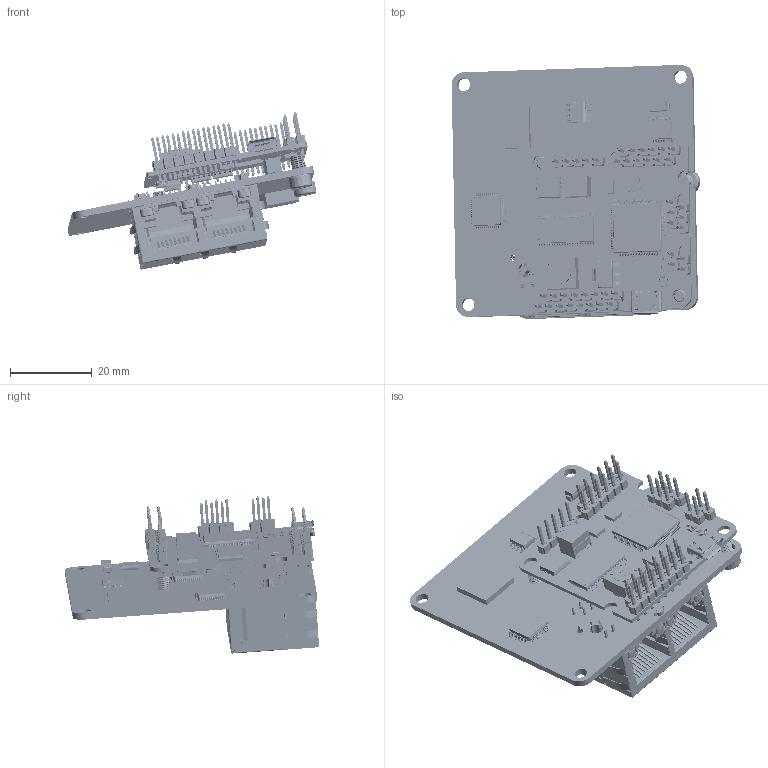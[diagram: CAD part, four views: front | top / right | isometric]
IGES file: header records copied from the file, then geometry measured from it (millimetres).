
Start section: SolidWorks IGES file using analytic representation for surfaces
Global section: file name: C:\Users\abolet\Desktop\i032-01H1-Pinheader+EtherCAT.IGS; native system: SolidWorks 2016; preprocessor: SolidWorks 2016; author: abolet; date: 160329.163143; units: millimetre
Bounding box: 60.89 x 62.2 x 39.3 mm (x, y, z)
Surface area: 29722.4 mm2 (no closed solid volume)
Topology: 0 solids, 0 shells, 11760 faces, 71508 edges, 70918 vertices
Faces by surface type: bspline 9117, revolution 2643
